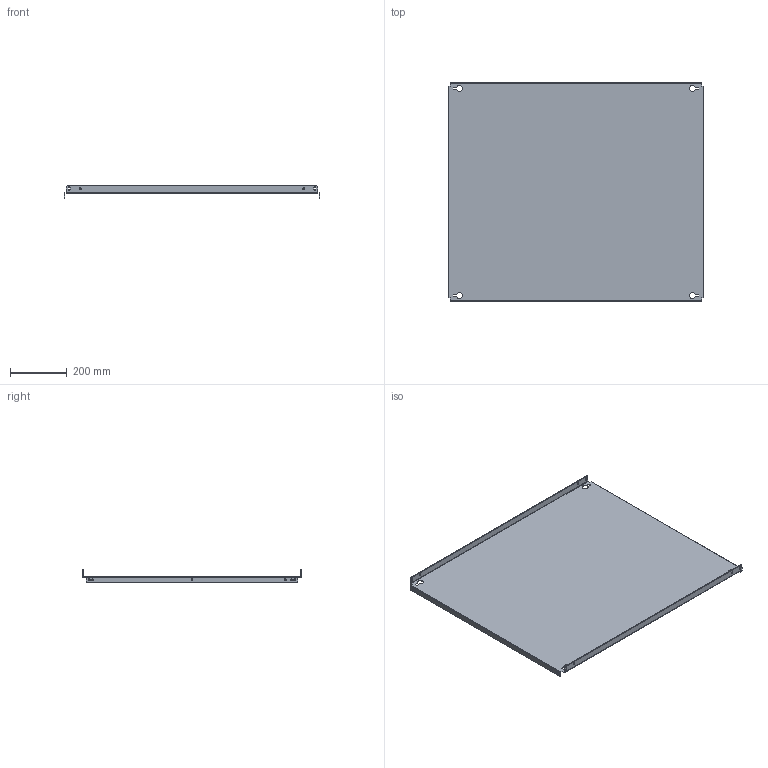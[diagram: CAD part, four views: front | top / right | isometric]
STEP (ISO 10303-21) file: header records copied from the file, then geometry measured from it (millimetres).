
FILE_DESCRIPTION (( 'STEP AP203' ), '1' );
FILE_NAME ('R5PPS8010.STEP', '2021-12-20T07:06:15', ( '' ), ( '' ), 'SwSTEP 2.0', 'SolidWorks 2020', '' );
FILE_SCHEMA (( 'CONFIG_CONTROL_DESIGN' ));
Length unit declared in the file: millimetre
Products named in the file (1): R5PPS8010
Bounding box: 900 x 769 x 43 mm (x, y, z)
Volume: 1508958.4 mm3; surface area: 1517637.3 mm2
Topology: 1 solids, 1 shells, 140 faces, 382 edges, 244 vertices
Faces by surface type: cylinder 82, plane 58
Entity records: 4627 total; most frequent: DIRECTION 828, CARTESIAN_POINT 767, ORIENTED_EDGE 764, EDGE_CURVE 382, AXIS2_PLACEMENT_3D 305, VERTEX_POINT 244, VECTOR 218, LINE 218
